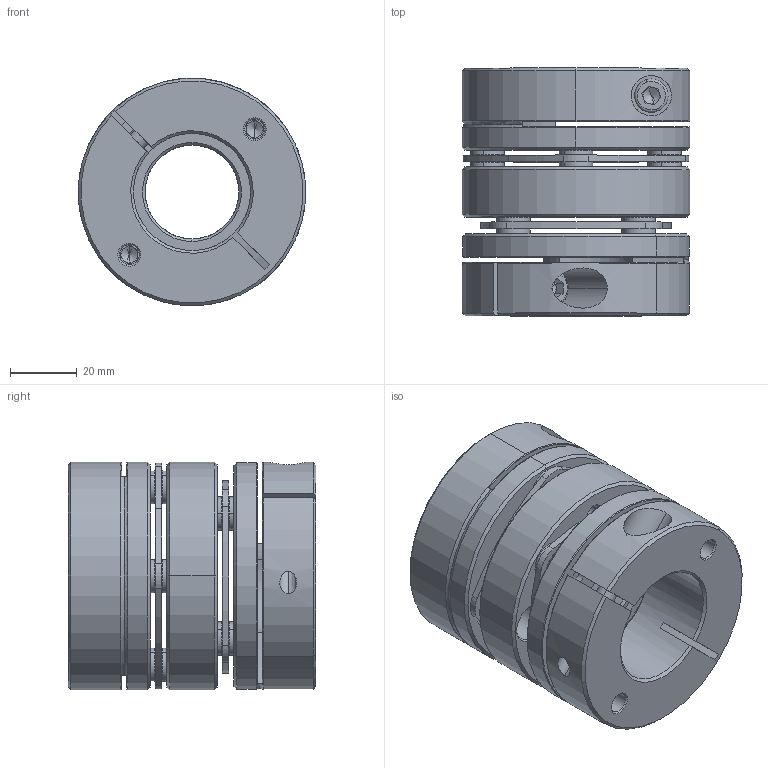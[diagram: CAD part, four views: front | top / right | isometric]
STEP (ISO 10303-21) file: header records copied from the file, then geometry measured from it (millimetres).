
FILE_DESCRIPTION (( 'STEP AP203' ), '1' );
FILE_NAME ('LD2-D68-28-35.STEP', '2021-10-26T08:46:39', ( '' ), ( '' ), 'SwSTEP 2.0', 'SolidWorks 2018', '' );
FILE_SCHEMA (( 'CONFIG_CONTROL_DESIGN' ));
Length unit declared in the file: millimetre
Products named in the file (2): LD2-D68-28-35; 錨璃102^LD2-D68
Assembly tree (1 placements, depth 2):
  LD2-D68-28-35
    錨璃102^LD2-D68
Bounding box: 68 x 74 x 68 mm (x, y, z)
Volume: 168066.2 mm3; surface area: 62512.7 mm2
Topology: 1 solids, 27 shells, 732 faces, 1696 edges, 1032 vertices
Faces by surface type: cylinder 256, cone 226, plane 220, torus 30
Entity records: 21398 total; most frequent: DIRECTION 3974, CARTESIAN_POINT 3912, ORIENTED_EDGE 3344, EDGE_CURVE 1672, AXIS2_PLACEMENT_3D 1614, VERTEX_POINT 1032, CIRCLE 878, EDGE_LOOP 868
